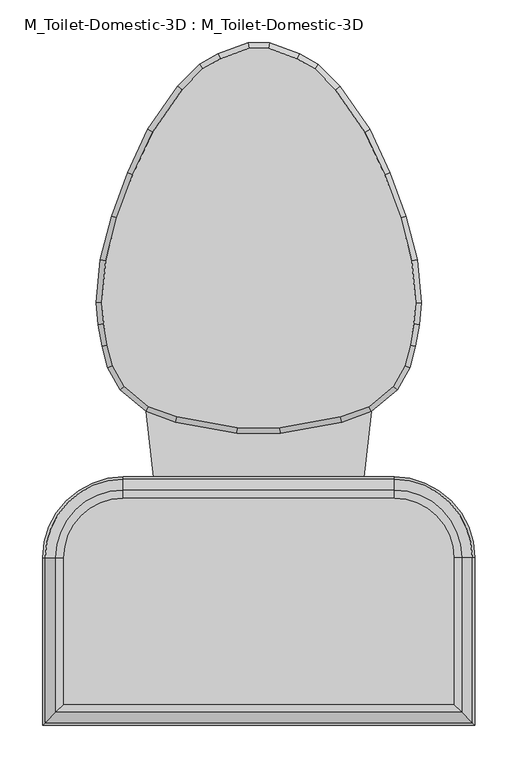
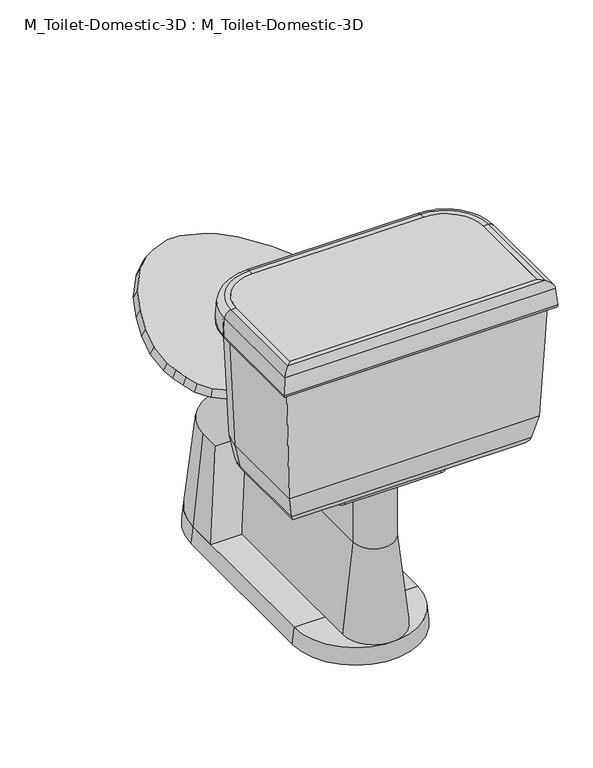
"""IFC4 building model written with IfcOpenShell, lengths in millimetres: flow terminal geometry, M_Toilet-Domestic-3D : M_Toilet-Domestic-3D."""

from ifc_helpers import new_model, si_unit, point, frame, frame_2d, origin, place, context, project, spatial, polyline, circle_curve, ellipse_curve, trimmed, segment, composite_curve, outline, extrude, faceted_brep, source, transform, mapped, element, save
from ifc_brep_helpers import plane_surface, cylinder_surface, revolved_surface, advanced_brep


def m_toilet_domestic_3d_m_toilet_domestic_3d_43425dfb(model_context):
    return source(origin(), model_context, "Body", "SolidModel", [
        advanced_brep(
        [(-117.7636364, -285.75, 0.0), (-114.3, -285.75, 31.75), (-38.1, -285.75, 31.75), (-38.1, -285.75, 0.0), (117.7636364, -285.75, 0.0), (38.1, -285.75, 0.0), (38.1, -285.75, 31.75), (114.3, -285.75, 31.75)],
        [
            (0, 1),
            (1, 2),
            (2, 3),
            (3, 0),
            (4, 5),
            (5, 6),
            (6, 7),
            (7, 4),
            (4, 0, circle_curve(frame((0.0, -285.75, 0.0), z_axis=(0.0, 0.0, -1.0), x_axis=(-1.0, 0.0, 0.0)), 117.7636364)),
            (3, 5, circle_curve(frame((0.0, -285.75, 0.0), z_axis=(0.0, 0.0, 1.0), x_axis=(-1.0, 0.0, 0.0)), 38.1)),
            (2, 6, circle_curve(frame((0.0, -285.75, 31.75), z_axis=(0.0, 0.0, 1.0), x_axis=(-1.0, 0.0, 0.0)), 38.1)),
            (1, 7, circle_curve(frame((0.0, -285.75, 31.75), z_axis=(0.0, 0.0, 1.0), x_axis=(-1.0, 0.0, 0.0)), 114.3)),
        ],
        [
            plane_surface(frame((0.0, -285.75, -304.8), z_axis=(0.0, 1.0, 0.0), x_axis=(-1.0, 0.0, 0.0))),
            plane_surface(frame((0.0, -285.75, -304.8), z_axis=(0.0, 1.0, 0.0), x_axis=(1.0, 0.0, 0.0))),
            plane_surface(frame((0.0, -285.75, 0.0), z_axis=(0.0, 0.0, -1.0), x_axis=(-1.0, 0.0, 0.0))),
            revolved_surface(polyline([(-38.1, -285.75, 0.0), (-38.1, -285.75, 31.75)]), (0.0, -285.75, -304.8), (0.0, 0.0, -1.0)),
            plane_surface(frame((0.0, -285.75, 31.75), z_axis=(0.0, 0.0, 1.0), x_axis=(-1.0, 0.0, 0.0))),
            revolved_surface(polyline([(-114.3, -285.75, 31.75), (-117.7636364, -285.75, 0.0)]), (0.0, -285.75, -304.8), (0.0, 0.0, -1.0)),
        ],
        [
            (0, [[1, 2, 3, 4]]),
            (1, [[5, 6, 7, 8]]),
            (2, [[-5, 9, -4, 10]]),
            (3, [[-6, -10, -3, 11]]),
            (4, [[-7, -11, -2, 12]]),
            (5, [[-8, -12, -1, -9]]),
        ],
    ),
        advanced_brep(
        [(-38.1, -342.9, 206.375), (-38.1, -342.9, 31.75), (-57.15, -342.9, 31.75), (38.1, -342.9, 206.375), (57.15, -342.9, 31.75), (38.1, -342.9, 31.75)],
        [
            (0, 1),
            (1, 2),
            (2, 0),
            (3, 4),
            (4, 5),
            (5, 3),
            (3, 0, circle_curve(frame((0.0, -342.9, 206.375), z_axis=(0.0, 0.0, -1.0), x_axis=(-1.0, 0.0, 0.0)), 38.1)),
            (2, 4, circle_curve(frame((0.0, -342.9, 31.75), z_axis=(0.0, 0.0, 1.0), x_axis=(-1.0, 0.0, 0.0)), 57.15)),
            (1, 5, circle_curve(frame((0.0, -342.9, 31.75), z_axis=(0.0, 0.0, 1.0), x_axis=(-1.0, 0.0, 0.0)), 38.1)),
        ],
        [
            plane_surface(frame((0.0, -342.9, 31.75), z_axis=(0.0, 1.0, 0.0), x_axis=(-1.0, 0.0, 0.0))),
            plane_surface(frame((0.0, -342.9, 31.75), z_axis=(0.0, 1.0, 0.0), x_axis=(1.0, 0.0, 0.0))),
            revolved_surface(polyline([(-38.1, -342.9, 206.375), (-57.15, -342.9, 31.75)]), (0.0, -342.9, 31.75), (0.0, 0.0, -1.0)),
            plane_surface(frame((0.0, -342.9, 31.75), z_axis=(0.0, 0.0, -1.0), x_axis=(-1.0, 0.0, 0.0))),
            revolved_surface(polyline([(-38.1, -342.9, 31.75), (-38.1, -342.9, 206.375)]), (0.0, -342.9, 31.75), (0.0, 0.0, -1.0)),
        ],
        [
            (0, [[1, 2, 3]]),
            (1, [[4, 5, 6]]),
            (2, [[-4, 7, -3, 8]]),
            (3, [[-5, -8, -2, 9]]),
            (4, [[-6, -9, -1, -7]]),
        ],
    ),
        faceted_brep([(-157.6293435, -97.472128, 400.05), (-129.0942628, -121.4159037, 400.05), (-95.7755003, -133.5429415, 400.05), (-24.844447, -146.05, 400.05), (24.844447, -146.05, 400.05), (95.7755003, -133.5429415, 400.05), (129.0942628, -121.4159037, 400.05), (157.6293435, -97.472128, 400.05), (171.060664, -73.773864, 400.05), (177.5851102, -49.4242991, 400.05), (181.9845715, -24.4737144, 400.05), (184.125744, 0.0, 400.05), (179.7950716, 49.4998127, 400.05), (166.347, 99.688699, 400.05), (148.0469602, 149.9676451, 400.05), (124.7045808, 200.0255393, 400.05), (90.0971582, 249.9125941, 400.05), (65.691017, 274.3187354, 400.05), (44.8990862, 286.3229622, 400.05), (11.5803237, 298.45, 400.05), (-11.5803237, 298.45, 400.05), (-44.8990862, 286.3229622, 400.05), (-65.691017, 274.3187354, 400.05), (-90.0971582, 249.9125941, 400.05), (-124.7045808, 200.0255393, 400.05), (-148.0469602, 149.9676451, 400.05), (-166.347, 99.688699, 400.05), (-179.7950716, 49.4998127, 400.05), (-184.125744, 0.0, 400.05), (-181.9845715, -24.4737144, 400.05), (-177.5851102, -49.4242991, 400.05), (-171.060664, -73.773864, 400.05), (-162.5887836, -101.6, 387.2181453), (-176.9845865, -76.2, 387.2181453), (-183.790496, -50.8, 387.2181453), (-188.2862441, -25.3033453, 387.2181453), (-190.5, 0.0, 387.2181453), (-186.0724883, 50.6066907, 387.2181453), (-172.4088722, 101.6, 387.2181453), (-153.9191843, 152.4, 387.2181453), (-130.2307553, 203.2, 387.2181453), (-94.9900085, 254.0, 387.2181453), (-69.5900085, 279.4, 387.2181453), (-47.5929632, 292.1, 387.2181453), (-12.7, 304.8, 387.2181453), (12.7, 304.8, 387.2181453), (47.5929632, 292.1, 387.2181453), (69.5900085, 279.4, 387.2181453), (94.9900085, 254.0, 387.2181453), (130.2307553, 203.2, 387.2181453), (153.9191843, 152.4, 387.2181453), (172.4088722, 101.6, 387.2181453), (186.0724883, 50.6066907, 387.2181453), (190.5, 0.0, 387.2181453), (188.2862441, -25.3033453, 387.2181453), (183.790496, -50.8, 387.2181453), (176.9845865, -76.2, 387.2181453), (162.5887836, -101.6, 387.2181453), (132.3182423, -127.0, 387.2181453), (97.4252791, -139.7, 387.2181453), (25.4, -152.4, 387.2181453), (-25.4, -152.4, 387.2181453), (-97.4252791, -139.7, 387.2181453), (-132.3182423, -127.0, 387.2181453)], [[[0, 1, 2, 3, 4, 5, 6, 7, 8, 9, 10, 11, 12, 13, 14, 15, 16, 17, 18, 19, 20, 21, 22, 23, 24, 25, 26, 27, 28, 29, 30, 31]], [[32, 33, 34, 35, 36, 37, 38, 39, 40, 41, 42, 43, 44, 45, 46, 47, 48, 49, 50, 51, 52, 53, 54, 55, 56, 57, 58, 59, 60, 61, 62, 63]], [[32, 0, 31, 33]], [[33, 31, 30, 34]], [[34, 30, 29, 35]], [[35, 29, 28, 36]], [[36, 28, 27, 37]], [[37, 27, 26, 38]], [[38, 26, 25, 39]], [[39, 25, 24, 40]], [[40, 24, 23, 41]], [[41, 23, 22, 42]], [[42, 22, 21, 43]], [[43, 21, 20, 44]], [[44, 20, 19, 45]], [[45, 19, 18, 46]], [[46, 18, 17, 47]], [[47, 17, 16, 48]], [[48, 16, 15, 49]], [[49, 15, 14, 50]], [[50, 14, 13, 51]], [[51, 13, 12, 52]], [[52, 12, 11, 53]], [[53, 11, 10, 54]], [[54, 10, 9, 55]], [[55, 9, 8, 56]], [[56, 8, 7, 57]], [[57, 7, 6, 58]], [[58, 6, 5, 59]], [[59, 5, 4, 60]], [[60, 4, 3, 61]], [[61, 3, 2, 62]], [[62, 2, 1, 63]], [[63, 1, 0, 32]]]),
        extrude(outline(composite_curve([segment(polyline([(228.5868869, -469.8868869), (-228.5868869, -469.8868869), (-228.5868869, -298.45)]), True, "CONTINUOUS"), segment(trimmed(circle_curve(frame_2d((-158.75, -298.45)), 69.8368869), [point((-228.5868869, -298.45))], [point((-158.75, -228.6131131))], False, "CARTESIAN"), True, "CONTINUOUS"), segment(polyline([(-158.75, -228.6131131), (158.75, -228.6131131)]), True, "CONTINUOUS"), segment(trimmed(circle_curve(frame_2d((158.75, -298.45)), 69.8368869), [point((158.75, -228.6131131))], [point((228.5868869, -298.45))], False, "CARTESIAN"), True, "CONTINUOUS"), segment(polyline([(228.5868869, -298.45), (228.5868869, -469.8868869)]), True, "CONTINUOUS")], self_intersect=False)), frame((0.0, 0.0, 654.05), z_axis=(0.0, 0.0, 1.0), x_axis=(1.0, 0.0, 0.0)), (0.0, 0.0, 1.0), 50.8),
        extrude(outline(composite_curve([segment(polyline([(-38.1, -342.9), (38.1, -342.9)]), True, "CONTINUOUS"), segment(trimmed(circle_curve(frame_2d((0.0, -342.9)), 38.1), [point((38.1, -342.9))], [point((-38.1, -342.9))], False, "CARTESIAN"), True, "CONTINUOUS")], self_intersect=False)), frame((0.0, 0.0, 206.375), z_axis=(0.0, 0.0, 1.0), x_axis=(1.0, 0.0, 0.0)), (0.0, 0.0, 1.0), 130.175),
        advanced_brep(
        [(177.8, -419.1, 387.2181453), (177.8, -298.45, 387.2181453), (177.8, -298.45, 374.65), (177.8, -419.1, 374.65), (192.8020829, -434.1020829, 387.2181453), (192.8020829, -298.45, 387.2181453), (211.4650931, -452.7650931, 402.4478636), (211.4650931, -298.45, 402.4478636), (218.7732506, -460.0732506, 438.15), (218.7732506, -298.45, 438.15), (228.5868869, -469.8868869, 654.05), (228.5868869, -298.45, 654.05), (228.5868869, -469.8868869, 704.85), (228.5868869, -298.45, 704.85), (237.91817, -479.21817, 704.85), (237.91817, -298.45, 704.85), (250.5698426, -491.8698426, 693.2568779), (250.5698426, -298.45, 693.2568779), (253.3960274, -494.6960274, 660.953439), (253.3960274, -298.45, 660.953439), (247.070191, -488.370191, 654.05), (247.070191, -298.45, 654.05), (241.3, -482.6, 654.05), (241.3, -298.45, 654.05), (231.4863636, -472.7863636, 438.15), (231.4863636, -298.45, 438.15), (222.3416824, -463.6416824, 393.4759963), (222.3416824, -298.45, 393.4759963), (197.8071664, -439.1071664, 374.65), (197.8071664, -298.45, 374.65), (158.75, -279.4, 387.2181453), (158.75, -279.4, 374.65), (158.75, -264.3979171, 387.2181453), (158.75, -245.7349069, 402.4478636), (158.75, -238.4267494, 438.15), (158.75, -228.6131131, 654.05), (158.75, -228.6131131, 704.85), (158.75, -219.28183, 704.85), (158.75, -206.6301574, 693.2568779), (158.75, -203.8039726, 660.953439), (158.75, -210.129809, 654.05), (158.75, -215.9, 654.05), (158.75, -225.7136364, 438.15), (158.75, -234.8583176, 393.4759963), (158.75, -259.3928336, 374.65), (-158.75, -279.4, 387.2181453), (-158.75, -279.4, 374.65), (-158.75, -264.3979171, 387.2181453), (-158.75, -245.7349069, 402.4478636), (-158.75, -238.4267494, 438.15), (-158.75, -228.6131131, 654.05), (-158.75, -228.6131131, 704.85), (-158.75, -219.28183, 704.85), (-158.75, -206.6301574, 693.2568779), (-158.75, -203.8039726, 660.953439), (-158.75, -210.129809, 654.05), (-158.75, -215.9, 654.05), (-158.75, -225.7136364, 438.15), (-158.75, -234.8583176, 393.4759963), (-158.75, -259.3928336, 374.65), (-177.8, -298.45, 387.2181453), (-177.8, -298.45, 374.65), (-192.8020829, -298.45, 387.2181453), (-211.4650931, -298.45, 402.4478636), (-218.7732506, -298.45, 438.15), (-228.5868869, -298.45, 654.05), (-228.5868869, -298.45, 704.85), (-237.91817, -298.45, 704.85), (-250.5698426, -298.45, 693.2568779), (-253.3960274, -298.45, 660.953439), (-247.070191, -298.45, 654.05), (-241.3, -298.45, 654.05), (-231.4863636, -298.45, 438.15), (-222.3416824, -298.45, 393.4759963), (-197.8071664, -298.45, 374.65), (-177.8, -419.1, 387.2181453), (-177.8, -419.1, 374.65), (-192.8020829, -434.1020829, 387.2181453), (-211.4650931, -452.7650931, 402.4478636), (-218.7732506, -460.0732506, 438.15), (-228.5868869, -469.8868869, 654.05), (-228.5868869, -469.8868869, 704.85), (-237.91817, -479.21817, 704.85), (-250.5698426, -491.8698426, 693.2568779), (-253.3960274, -494.6960274, 660.953439), (-247.070191, -488.370191, 654.05), (-241.3, -482.6, 654.05), (-231.4863636, -472.7863636, 438.15), (-222.3416824, -463.6416824, 393.4759963), (-197.8071664, -439.1071664, 374.65)],
        [
            (0, 1),
            (1, 2),
            (2, 3),
            (3, 0),
            (4, 5),
            (5, 1),
            (0, 4),
            (6, 7),
            (7, 5, circle_curve(frame((192.8020829, -298.45, 406.2681453), z_axis=(0.0, 1.0, 0.0), x_axis=(1.0, 0.0, 0.0)), 19.05)),
            (4, 6, ellipse_curve(frame((192.8020829, -434.1020829, 406.2681453), z_axis=(-0.7071067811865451, -0.7071067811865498, 0.0), x_axis=(-0.7071067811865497, 0.7071067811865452, 0.0)), 26.9407684, 19.05)),
            (8, 9),
            (9, 7),
            (6, 8),
            (10, 11),
            (11, 9),
            (8, 10),
            (12, 13),
            (13, 11),
            (10, 12),
            (14, 15),
            (15, 13),
            (12, 14),
            (16, 17),
            (17, 15, circle_curve(frame((237.91817, -298.45, 692.15), z_axis=(0.0, -1.0, 0.0), x_axis=(1.0, 0.0, 0.0)), 12.7)),
            (14, 16, ellipse_curve(frame((237.91817, -479.21817, 692.15), z_axis=(0.7071067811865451, 0.7071067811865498, 0.0), x_axis=(0.7071067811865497, -0.7071067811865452, 0.0)), 17.9605122, 12.7)),
            (18, 19),
            (19, 17),
            (16, 18),
            (20, 21),
            (21, 19, circle_curve(frame((247.070191, -298.45, 660.4), z_axis=(0.0, -1.0, 0.0), x_axis=(1.0, 0.0, 0.0)), 6.35)),
            (18, 20, ellipse_curve(frame((247.070191, -488.370191, 660.4), z_axis=(0.7071067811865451, 0.7071067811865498, 0.0), x_axis=(0.7071067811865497, -0.7071067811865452, 0.0)), 8.9802561, 6.35)),
            (22, 23),
            (23, 21),
            (20, 22),
            (24, 25),
            (25, 23),
            (22, 24),
            (26, 27),
            (27, 25),
            (24, 26),
            (28, 29),
            (29, 27, circle_curve(frame((197.8071664, -298.45, 400.05), z_axis=(0.0, -1.0, 0.0), x_axis=(1.0, 0.0, 0.0)), 25.4)),
            (26, 28, ellipse_curve(frame((197.8071664, -439.1071664, 400.05), z_axis=(0.7071067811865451, 0.7071067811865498, 0.0), x_axis=(0.7071067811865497, -0.7071067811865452, 0.0)), 35.9210245, 25.4)),
            (2, 29),
            (28, 3),
            (30, 31),
            (31, 2, circle_curve(frame((158.75, -298.45, 374.65), z_axis=(0.0, 0.0, -1.0), x_axis=(1.0, 0.0, 0.0)), 19.05)),
            (1, 30, circle_curve(frame((158.75, -298.45, 387.2181453), z_axis=(0.0, 0.0, 1.0), x_axis=(1.0, 0.0, 0.0)), 19.05)),
            (32, 30),
            (5, 32, circle_curve(frame((158.75, -298.45, 387.2181453), z_axis=(0.0, 0.0, 1.0), x_axis=(1.0, 0.0, 0.0)), 34.0520829)),
            (33, 32, circle_curve(frame((158.75, -264.3979171, 406.2681453), z_axis=(-1.0, 0.0, 0.0), x_axis=(0.0, 1.0, 0.0)), 19.05)),
            (7, 33, circle_curve(frame((158.75, -298.45, 402.4478636), z_axis=(0.0, 0.0, 1.0), x_axis=(1.0, 0.0, 0.0)), 52.7150931)),
            (34, 33),
            (9, 34, circle_curve(frame((158.75, -298.45, 438.15), z_axis=(0.0, 0.0, 1.0), x_axis=(1.0, 0.0, 0.0)), 60.0232506)),
            (35, 34),
            (11, 35, circle_curve(frame((158.75, -298.45, 654.05), z_axis=(0.0, 0.0, 1.0), x_axis=(1.0, 0.0, 0.0)), 69.8368869)),
            (36, 35),
            (13, 36, circle_curve(frame((158.75, -298.45, 704.85), z_axis=(0.0, 0.0, 1.0), x_axis=(1.0, 0.0, 0.0)), 69.8368869)),
            (37, 36),
            (15, 37, circle_curve(frame((158.75, -298.45, 704.85), z_axis=(0.0, 0.0, 1.0), x_axis=(1.0, 0.0, 0.0)), 79.16817)),
            (38, 37, circle_curve(frame((158.75, -219.28183, 692.15), z_axis=(1.0, 0.0, 0.0), x_axis=(0.0, 1.0, 0.0)), 12.7)),
            (17, 38, circle_curve(frame((158.75, -298.45, 693.2568779), z_axis=(0.0, 0.0, 1.0), x_axis=(1.0, 0.0, 0.0)), 91.8198426)),
            (39, 38),
            (19, 39, circle_curve(frame((158.75, -298.45, 660.953439), z_axis=(0.0, 0.0, 1.0), x_axis=(1.0, 0.0, 0.0)), 94.6460274)),
            (40, 39, circle_curve(frame((158.75, -210.129809, 660.4), z_axis=(1.0, 0.0, 0.0), x_axis=(0.0, 1.0, 0.0)), 6.35)),
            (21, 40, circle_curve(frame((158.75, -298.45, 654.05), z_axis=(0.0, 0.0, 1.0), x_axis=(1.0, 0.0, 0.0)), 88.320191)),
            (41, 40),
            (23, 41, circle_curve(frame((158.75, -298.45, 654.05), z_axis=(0.0, 0.0, 1.0), x_axis=(1.0, 0.0, 0.0)), 82.55)),
            (42, 41),
            (25, 42, circle_curve(frame((158.75, -298.45, 438.15), z_axis=(0.0, 0.0, 1.0), x_axis=(1.0, 0.0, 0.0)), 72.7363636)),
            (43, 42),
            (27, 43, circle_curve(frame((158.75, -298.45, 393.4759963), z_axis=(0.0, 0.0, 1.0), x_axis=(1.0, 0.0, 0.0)), 63.5916824)),
            (44, 43, circle_curve(frame((158.75, -259.3928336, 400.05), z_axis=(1.0, 0.0, 0.0), x_axis=(0.0, 1.0, 0.0)), 25.4)),
            (29, 44, circle_curve(frame((158.75, -298.45, 374.65), z_axis=(0.0, 0.0, 1.0), x_axis=(1.0, 0.0, 0.0)), 39.0571664)),
            (31, 44),
            (30, 45),
            (45, 46),
            (46, 31),
            (32, 47),
            (47, 45),
            (33, 48),
            (48, 47, circle_curve(frame((-158.75, -264.3979171, 406.2681453), z_axis=(-1.0, 0.0, 0.0), x_axis=(0.0, 1.0, 0.0)), 19.05)),
            (34, 49),
            (49, 48),
            (35, 50),
            (50, 49),
            (36, 51),
            (51, 50),
            (37, 52),
            (52, 51),
            (38, 53),
            (53, 52, circle_curve(frame((-158.75, -219.28183, 692.15), z_axis=(1.0, 0.0, 0.0), x_axis=(0.0, 1.0, 0.0)), 12.7)),
            (39, 54),
            (54, 53),
            (40, 55),
            (55, 54, circle_curve(frame((-158.75, -210.129809, 660.4), z_axis=(1.0, 0.0, 0.0), x_axis=(0.0, 1.0, 0.0)), 6.35)),
            (41, 56),
            (56, 55),
            (42, 57),
            (57, 56),
            (43, 58),
            (58, 57),
            (44, 59),
            (59, 58, circle_curve(frame((-158.75, -259.3928336, 400.05), z_axis=(1.0, 0.0, 0.0), x_axis=(0.0, 1.0, 0.0)), 25.4)),
            (46, 59),
            (60, 61),
            (61, 46, circle_curve(frame((-158.75, -298.45, 374.65), z_axis=(0.0, 0.0, -1.0), x_axis=(0.0, 1.0, 0.0)), 19.05)),
            (45, 60, circle_curve(frame((-158.75, -298.45, 387.2181453), z_axis=(0.0, 0.0, 1.0), x_axis=(0.0, 1.0, 0.0)), 19.05)),
            (62, 60),
            (47, 62, circle_curve(frame((-158.75, -298.45, 387.2181453), z_axis=(0.0, 0.0, 1.0), x_axis=(0.0, 1.0, 0.0)), 34.0520829)),
            (63, 62, circle_curve(frame((-192.8020829, -298.45, 406.2681453), z_axis=(0.0, -1.0, 0.0), x_axis=(-1.0, 0.0, 0.0)), 19.05)),
            (48, 63, circle_curve(frame((-158.75, -298.45, 402.4478636), z_axis=(0.0, 0.0, 1.0), x_axis=(0.0, 1.0, 0.0)), 52.7150931)),
            (64, 63),
            (49, 64, circle_curve(frame((-158.75, -298.45, 438.15), z_axis=(0.0, 0.0, 1.0), x_axis=(0.0, 1.0, 0.0)), 60.0232506)),
            (65, 64),
            (50, 65, circle_curve(frame((-158.75, -298.45, 654.05), z_axis=(0.0, 0.0, 1.0), x_axis=(0.0, 1.0, 0.0)), 69.8368869)),
            (66, 65),
            (51, 66, circle_curve(frame((-158.75, -298.45, 704.85), z_axis=(0.0, 0.0, 1.0), x_axis=(0.0, 1.0, 0.0)), 69.8368869)),
            (67, 66),
            (52, 67, circle_curve(frame((-158.75, -298.45, 704.85), z_axis=(0.0, 0.0, 1.0), x_axis=(0.0, 1.0, 0.0)), 79.16817)),
            (68, 67, circle_curve(frame((-237.91817, -298.45, 692.15), z_axis=(0.0, 1.0, 0.0), x_axis=(-1.0, 0.0, 0.0)), 12.7)),
            (53, 68, circle_curve(frame((-158.75, -298.45, 693.2568779), z_axis=(0.0, 0.0, 1.0), x_axis=(0.0, 1.0, 0.0)), 91.8198426)),
            (69, 68),
            (54, 69, circle_curve(frame((-158.75, -298.45, 660.953439), z_axis=(0.0, 0.0, 1.0), x_axis=(0.0, 1.0, 0.0)), 94.6460274)),
            (70, 69, circle_curve(frame((-247.070191, -298.45, 660.4), z_axis=(0.0, 1.0, 0.0), x_axis=(-1.0, 0.0, 0.0)), 6.35)),
            (55, 70, circle_curve(frame((-158.75, -298.45, 654.05), z_axis=(0.0, 0.0, 1.0), x_axis=(0.0, 1.0, 0.0)), 88.320191)),
            (71, 70),
            (56, 71, circle_curve(frame((-158.75, -298.45, 654.05), z_axis=(0.0, 0.0, 1.0), x_axis=(0.0, 1.0, 0.0)), 82.55)),
            (72, 71),
            (57, 72, circle_curve(frame((-158.75, -298.45, 438.15), z_axis=(0.0, 0.0, 1.0), x_axis=(0.0, 1.0, 0.0)), 72.7363636)),
            (73, 72),
            (58, 73, circle_curve(frame((-158.75, -298.45, 393.4759963), z_axis=(0.0, 0.0, 1.0), x_axis=(0.0, 1.0, 0.0)), 63.5916824)),
            (74, 73, circle_curve(frame((-197.8071664, -298.45, 400.05), z_axis=(0.0, 1.0, 0.0), x_axis=(-1.0, 0.0, 0.0)), 25.4)),
            (59, 74, circle_curve(frame((-158.75, -298.45, 374.65), z_axis=(0.0, 0.0, 1.0), x_axis=(0.0, 1.0, 0.0)), 39.0571664)),
            (61, 74),
            (60, 75),
            (75, 76),
            (76, 61),
            (62, 77),
            (77, 75),
            (63, 78),
            (78, 77, ellipse_curve(frame((-192.8020829, -434.1020829, 406.2681453), z_axis=(0.7071067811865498, -0.7071067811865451, 0.0), x_axis=(-0.7071067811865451, -0.70710678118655, 0.0)), 26.9407684, 19.05)),
            (64, 79),
            (79, 78),
            (65, 80),
            (80, 79),
            (66, 81),
            (81, 80),
            (67, 82),
            (82, 81),
            (68, 83),
            (83, 82, ellipse_curve(frame((-237.91817, -479.21817, 692.15), z_axis=(-0.7071067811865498, 0.7071067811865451, 0.0), x_axis=(0.7071067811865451, 0.70710678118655, 0.0)), 17.9605122, 12.7)),
            (69, 84),
            (84, 83),
            (70, 85),
            (85, 84, ellipse_curve(frame((-247.070191, -488.370191, 660.4), z_axis=(-0.7071067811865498, 0.7071067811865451, 0.0), x_axis=(0.7071067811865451, 0.70710678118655, 0.0)), 8.9802561, 6.35)),
            (71, 86),
            (86, 85),
            (72, 87),
            (87, 86),
            (73, 88),
            (88, 87),
            (74, 89),
            (89, 88, ellipse_curve(frame((-197.8071664, -439.1071664, 400.05), z_axis=(-0.7071067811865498, 0.7071067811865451, 0.0), x_axis=(0.7071067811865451, 0.70710678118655, 0.0)), 35.9210245, 25.4)),
            (76, 89),
            (75, 0),
            (3, 76),
            (77, 4),
            (78, 6),
            (79, 8),
            (80, 10),
            (81, 12),
            (82, 14),
            (83, 16),
            (84, 18),
            (85, 20),
            (86, 22),
            (87, 24),
            (88, 26),
            (89, 28),
        ],
        [
            plane_surface(frame((177.8, -419.1, 374.65), z_axis=(-1.0, 0.0, 0.0), x_axis=(0.0, 1.0, 0.0))),
            plane_surface(frame((177.8, -419.1, 387.2181453), z_axis=(0.0, 0.0, 1.0), x_axis=(0.0, 1.0, 0.0))),
            revolved_surface(polyline([(211.8520829, -298.45, 406.2681453), (211.8520829, -453.1520829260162, 406.2681453)]), (192.8020829, -419.1, 406.2681453), (0.0, 1.0, 0.0)),
            plane_surface(frame((211.4650931, -452.7650931, 402.4478636), z_axis=(-0.9796855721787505, 0.0, 0.2005397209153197), x_axis=(0.0, 1.0, 0.0))),
            plane_surface(frame((218.7732506, -460.0732506, 438.15), z_axis=(-0.9989685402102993, 0.0, 0.04540766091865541), x_axis=(0.0, 1.0, 0.0))),
            plane_surface(frame((228.5868869, -469.8868869, 654.05), z_axis=(-1.0, 0.0, 0.0), x_axis=(0.0, 1.0, 0.0))),
            plane_surface(frame((228.5868869, -469.8868869, 704.85), z_axis=(0.0, 0.0, 1.0), x_axis=(0.0, 1.0, 0.0))),
            cylinder_surface(frame((237.91817, -419.1, 692.15), z_axis=(0.0, -1.0, 0.0), x_axis=(1.0, 0.0, 0.0)), 12.7),
            plane_surface(frame((250.5698426, -491.8698426, 693.2568779), z_axis=(0.9961946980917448, 0.0, 0.08715574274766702), x_axis=(0.0, 1.0, 0.0))),
            cylinder_surface(frame((247.070191, -419.1, 660.4), z_axis=(0.0, -1.0, 0.0), x_axis=(1.0, 0.0, 0.0)), 6.35),
            plane_surface(frame((247.070191, -488.370191, 654.05), z_axis=(0.0, 0.0, -1.0), x_axis=(0.0, 1.0, 0.0))),
            plane_surface(frame((241.3, -482.6, 654.05), z_axis=(0.9989685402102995, 0.0, -0.04540766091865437), x_axis=(0.0, 1.0, 0.0))),
            plane_surface(frame((231.4863636, -472.7863636, 438.15), z_axis=(0.9796855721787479, 0.0, -0.2005397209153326), x_axis=(0.0, 1.0, 0.0))),
            cylinder_surface(frame((197.8071664, -419.1, 400.05), z_axis=(0.0, -1.0, 0.0), x_axis=(1.0, 0.0, 0.0)), 25.4),
            plane_surface(frame((197.8071664, -439.1071664, 374.65), z_axis=(0.0, 0.0, -1.0), x_axis=(0.0, 1.0, 0.0))),
            revolved_surface(polyline([(177.8, -298.45, 374.65), (177.8, -298.45, 387.2181453)]), (158.75, -298.45, 0.0), (0.0, 0.0, -1.0)),
            plane_surface(frame((158.75, -298.45, 387.2181453), z_axis=(0.0, 0.0, 1.0), x_axis=(1.0, 0.0, 0.0))),
            revolved_surface(trimmed(ellipse_curve(frame((192.8020829, -298.45, 406.2681453), z_axis=(0.0, -1.0, 0.0), x_axis=(1.0, 0.0, 0.0)), 19.05, 19.05), [point((192.8020829, -298.45, 387.2181453))], [point((211.4650931, -298.45, 402.4478636))], True, "CARTESIAN"), (158.75, -298.45, 0.0), (0.0, 0.0, -1.0)),
            revolved_surface(polyline([(211.4650931, -298.45, 402.4478636), (218.7732506, -298.45, 438.15)]), (158.75, -298.45, 0.0), (0.0, 0.0, -1.0)),
            revolved_surface(polyline([(218.7732506, -298.45, 438.15), (228.5868869, -298.45, 654.05)]), (158.75, -298.45, 0.0), (0.0, 0.0, -1.0)),
            revolved_surface(polyline([(228.5868869, -298.45, 654.05), (228.5868869, -298.45, 704.85)]), (158.75, -298.45, 0.0), (0.0, 0.0, -1.0)),
            plane_surface(frame((158.75, -298.45, 704.85), z_axis=(0.0, 0.0, 1.0), x_axis=(1.0, 0.0, 0.0))),
            revolved_surface(trimmed(ellipse_curve(frame((237.91817, -298.45, 692.15), z_axis=(0.0, 1.0, 0.0), x_axis=(1.0, 0.0, 0.0)), 12.7, 12.7), [point((237.91817, -298.45, 704.85))], [point((250.5698426, -298.45, 693.2568779))], True, "CARTESIAN"), (158.75, -298.45, 0.0), (0.0, 0.0, -1.0)),
            revolved_surface(polyline([(250.5698426, -298.45, 693.2568779), (253.3960274, -298.45, 660.953439)]), (158.75, -298.45, 0.0), (0.0, 0.0, -1.0)),
            revolved_surface(trimmed(ellipse_curve(frame((247.070191, -298.45, 660.4), z_axis=(0.0, 1.0, 0.0), x_axis=(1.0, 0.0, 0.0)), 6.35, 6.35), [point((253.3960274, -298.45, 660.953439))], [point((247.070191, -298.45, 654.05))], True, "CARTESIAN"), (158.75, -298.45, 0.0), (0.0, 0.0, -1.0)),
            plane_surface(frame((158.75, -298.45, 654.05), z_axis=(0.0, 0.0, -1.0), x_axis=(1.0, 0.0, 0.0))),
            revolved_surface(polyline([(241.3, -298.45, 654.05), (231.4863636, -298.45, 438.15)]), (158.75, -298.45, 0.0), (0.0, 0.0, -1.0)),
            revolved_surface(polyline([(231.4863636, -298.45, 438.15), (222.3416824, -298.45, 393.4759963)]), (158.75, -298.45, 0.0), (0.0, 0.0, -1.0)),
            revolved_surface(trimmed(ellipse_curve(frame((197.8071664, -298.45, 400.05), z_axis=(0.0, 1.0, 0.0), x_axis=(1.0, 0.0, 0.0)), 25.4, 25.4), [point((222.3416824, -298.45, 393.4759963))], [point((197.8071664, -298.45, 374.65))], True, "CARTESIAN"), (158.75, -298.45, 0.0), (0.0, 0.0, -1.0)),
            plane_surface(frame((158.75, -298.45, 374.65), z_axis=(0.0, 0.0, -1.0), x_axis=(1.0, 0.0, 0.0))),
            plane_surface(frame((158.75, -279.4, 374.65), z_axis=(0.0, -1.0, 0.0), x_axis=(-1.0, 0.0, 0.0))),
            plane_surface(frame((158.75, -279.4, 387.2181453), z_axis=(0.0, 0.0, 1.0), x_axis=(-1.0, 0.0, 0.0))),
            revolved_surface(polyline([(-158.75, -245.34791709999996, 406.2681453), (158.75, -245.34791709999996, 406.2681453)]), (158.75, -264.3979171, 406.2681453), (-1.0, 0.0, 0.0)),
            plane_surface(frame((158.75, -245.7349069, 402.4478636), z_axis=(0.0, -0.9796855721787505, 0.2005397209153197), x_axis=(-1.0, 0.0, 0.0))),
            plane_surface(frame((158.75, -238.4267494, 438.15), z_axis=(0.0, -0.9989685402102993, 0.04540766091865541), x_axis=(-1.0, 0.0, 0.0))),
            plane_surface(frame((158.75, -228.6131131, 654.05), z_axis=(0.0, -1.0, 0.0), x_axis=(-1.0, 0.0, 0.0))),
            plane_surface(frame((158.75, -228.6131131, 704.85), z_axis=(0.0, 0.0, 1.0), x_axis=(-1.0, 0.0, 0.0))),
            cylinder_surface(frame((158.75, -219.28183, 692.15), z_axis=(1.0, 0.0, 0.0), x_axis=(0.0, 1.0, 0.0)), 12.7),
            plane_surface(frame((158.75, -206.6301574, 693.2568779), z_axis=(0.0, 0.9961946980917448, 0.08715574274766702), x_axis=(-1.0, 0.0, 0.0))),
            cylinder_surface(frame((158.75, -210.129809, 660.4), z_axis=(1.0, 0.0, 0.0), x_axis=(0.0, 1.0, 0.0)), 6.35),
            plane_surface(frame((158.75, -210.129809, 654.05), z_axis=(0.0, 0.0, -1.0), x_axis=(-1.0, 0.0, 0.0))),
            plane_surface(frame((158.75, -215.9, 654.05), z_axis=(0.0, 0.9989685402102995, -0.04540766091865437), x_axis=(-1.0, 0.0, 0.0))),
            plane_surface(frame((158.75, -225.7136364, 438.15), z_axis=(0.0, 0.9796855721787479, -0.2005397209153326), x_axis=(-1.0, 0.0, 0.0))),
            cylinder_surface(frame((158.75, -259.3928336, 400.05), z_axis=(1.0, 0.0, 0.0), x_axis=(0.0, 1.0, 0.0)), 25.4),
            plane_surface(frame((158.75, -259.3928336, 374.65), z_axis=(0.0, 0.0, -1.0), x_axis=(-1.0, 0.0, 0.0))),
            revolved_surface(polyline([(-158.75, -279.4, 374.65), (-158.75, -279.4, 387.2181453)]), (-158.75, -298.45, 0.0), (0.0, 0.0, -1.0)),
            plane_surface(frame((-158.75, -298.45, 387.2181453), z_axis=(0.0, 0.0, 1.0), x_axis=(0.0, 1.0, 0.0))),
            revolved_surface(trimmed(ellipse_curve(frame((-158.75, -264.3979171, 406.2681453), z_axis=(1.0, 0.0, 0.0), x_axis=(0.0, 1.0, 0.0)), 19.05, 19.05), [point((-158.75, -264.3979171, 387.2181453))], [point((-158.75, -245.7349069, 402.4478636))], True, "CARTESIAN"), (-158.75, -298.45, 0.0), (0.0, 0.0, -1.0)),
            revolved_surface(polyline([(-158.75, -245.7349069, 402.4478636), (-158.75, -238.4267494, 438.15)]), (-158.75, -298.45, 0.0), (0.0, 0.0, -1.0)),
            revolved_surface(polyline([(-158.75, -238.4267494, 438.15), (-158.75, -228.6131131, 654.05)]), (-158.75, -298.45, 0.0), (0.0, 0.0, -1.0)),
            revolved_surface(polyline([(-158.75, -228.6131131, 654.05), (-158.75, -228.6131131, 704.85)]), (-158.75, -298.45, 0.0), (0.0, 0.0, -1.0)),
            plane_surface(frame((-158.75, -298.45, 704.85), z_axis=(0.0, 0.0, 1.0), x_axis=(0.0, 1.0, 0.0))),
            revolved_surface(trimmed(ellipse_curve(frame((-158.75, -219.28183, 692.15), z_axis=(-1.0, 0.0, 0.0), x_axis=(0.0, 1.0, 0.0)), 12.7, 12.7), [point((-158.75, -219.28183, 704.85))], [point((-158.75, -206.6301574, 693.2568779))], True, "CARTESIAN"), (-158.75, -298.45, 0.0), (0.0, 0.0, -1.0)),
            revolved_surface(polyline([(-158.75, -206.6301574, 693.2568779), (-158.75, -203.8039726, 660.953439)]), (-158.75, -298.45, 0.0), (0.0, 0.0, -1.0)),
            revolved_surface(trimmed(ellipse_curve(frame((-158.75, -210.129809, 660.4), z_axis=(-1.0, 0.0, 0.0), x_axis=(0.0, 1.0, 0.0)), 6.35, 6.35), [point((-158.75, -203.8039726, 660.953439))], [point((-158.75, -210.129809, 654.05))], True, "CARTESIAN"), (-158.75, -298.45, 0.0), (0.0, 0.0, -1.0)),
            plane_surface(frame((-158.75, -298.45, 654.05), z_axis=(0.0, 0.0, -1.0), x_axis=(0.0, 1.0, 0.0))),
            revolved_surface(polyline([(-158.75, -215.9, 654.05), (-158.75, -225.7136364, 438.15)]), (-158.75, -298.45, 0.0), (0.0, 0.0, -1.0)),
            revolved_surface(polyline([(-158.75, -225.7136364, 438.15), (-158.75, -234.8583176, 393.4759963)]), (-158.75, -298.45, 0.0), (0.0, 0.0, -1.0)),
            revolved_surface(trimmed(ellipse_curve(frame((-158.75, -259.3928336, 400.05), z_axis=(-1.0, 0.0, 0.0), x_axis=(0.0, 1.0, 0.0)), 25.4, 25.4), [point((-158.75, -234.8583176, 393.4759963))], [point((-158.75, -259.3928336, 374.65))], True, "CARTESIAN"), (-158.75, -298.45, 0.0), (0.0, 0.0, -1.0)),
            plane_surface(frame((-158.75, -298.45, 374.65), z_axis=(0.0, 0.0, -1.0), x_axis=(0.0, 1.0, 0.0))),
            plane_surface(frame((-177.8, -298.45, 374.65), z_axis=(1.0, 0.0, 0.0), x_axis=(0.0, -1.0, 0.0))),
            plane_surface(frame((-177.8, -298.45, 387.2181453), z_axis=(0.0, 0.0, 1.0), x_axis=(0.0, -1.0, 0.0))),
            revolved_surface(polyline([(-211.8520829, -453.15208292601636, 406.2681453), (-211.8520829, -298.45, 406.2681453)]), (-192.8020829, -298.45, 406.2681453), (0.0, -1.0, 0.0)),
            plane_surface(frame((-211.4650931, -298.45, 402.4478636), z_axis=(0.9796855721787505, 0.0, 0.2005397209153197), x_axis=(0.0, -1.0, 0.0))),
            plane_surface(frame((-218.7732506, -298.45, 438.15), z_axis=(0.9989685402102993, 0.0, 0.04540766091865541), x_axis=(0.0, -1.0, 0.0))),
            plane_surface(frame((-228.5868869, -298.45, 654.05), z_axis=(1.0, 0.0, 0.0), x_axis=(0.0, -1.0, 0.0))),
            plane_surface(frame((-228.5868869, -298.45, 704.85), z_axis=(0.0, 0.0, 1.0), x_axis=(0.0, -1.0, 0.0))),
            cylinder_surface(frame((-237.91817, -298.45, 692.15), z_axis=(0.0, 1.0, 0.0), x_axis=(-1.0, 0.0, 0.0)), 12.7),
            plane_surface(frame((-250.5698426, -298.45, 693.2568779), z_axis=(-0.9961946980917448, 0.0, 0.08715574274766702), x_axis=(0.0, -1.0, 0.0))),
            cylinder_surface(frame((-247.070191, -298.45, 660.4), z_axis=(0.0, 1.0, 0.0), x_axis=(-1.0, 0.0, 0.0)), 6.35),
            plane_surface(frame((-247.070191, -298.45, 654.05), z_axis=(0.0, 0.0, -1.0), x_axis=(0.0, -1.0, 0.0))),
            plane_surface(frame((-241.3, -298.45, 654.05), z_axis=(-0.9989685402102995, 0.0, -0.04540766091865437), x_axis=(0.0, -1.0, 0.0))),
            plane_surface(frame((-231.4863636, -298.45, 438.15), z_axis=(-0.9796855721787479, 0.0, -0.2005397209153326), x_axis=(0.0, -1.0, 0.0))),
            cylinder_surface(frame((-197.8071664, -298.45, 400.05), z_axis=(0.0, 1.0, 0.0), x_axis=(-1.0, 0.0, 0.0)), 25.4),
            plane_surface(frame((-197.8071664, -298.45, 374.65), z_axis=(0.0, 0.0, -1.0), x_axis=(0.0, -1.0, 0.0))),
            plane_surface(frame((-177.8, -419.1, 374.65), z_axis=(0.0, 1.0, 0.0), x_axis=(1.0, 0.0, 0.0))),
            plane_surface(frame((-177.8, -419.1, 387.2181453), z_axis=(0.0, 0.0, 1.0), x_axis=(1.0, 0.0, 0.0))),
            revolved_surface(polyline([(211.85208292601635, -453.15208290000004, 406.2681453), (-211.85208292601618, -453.15208290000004, 406.2681453)]), (-177.8, -434.1020829, 406.2681453), (1.0, 0.0, 0.0)),
            plane_surface(frame((-211.4650931, -452.7650931, 402.4478636), z_axis=(0.0, 0.9796855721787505, 0.2005397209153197), x_axis=(1.0, 0.0, 0.0))),
            plane_surface(frame((-218.7732506, -460.0732506, 438.15), z_axis=(0.0, 0.9989685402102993, 0.04540766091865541), x_axis=(1.0, 0.0, 0.0))),
            plane_surface(frame((-228.5868869, -469.8868869, 654.05), z_axis=(0.0, 1.0, 0.0), x_axis=(1.0, 0.0, 0.0))),
            plane_surface(frame((-228.5868869, -469.8868869, 704.85), z_axis=(0.0, 0.0, 1.0), x_axis=(1.0, 0.0, 0.0))),
            cylinder_surface(frame((-177.8, -479.21817, 692.15), z_axis=(-1.0, 0.0, 0.0), x_axis=(0.0, -1.0, 0.0)), 12.7),
            plane_surface(frame((-250.5698426, -491.8698426, 693.2568779), z_axis=(0.0, -0.9961946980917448, 0.08715574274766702), x_axis=(1.0, 0.0, 0.0))),
            cylinder_surface(frame((-177.8, -488.370191, 660.4), z_axis=(-1.0, 0.0, 0.0), x_axis=(0.0, -1.0, 0.0)), 6.35),
            plane_surface(frame((-247.070191, -488.370191, 654.05), z_axis=(0.0, 0.0, -1.0), x_axis=(1.0, 0.0, 0.0))),
            plane_surface(frame((-241.3, -482.6, 654.05), z_axis=(0.0, -0.9989685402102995, -0.04540766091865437), x_axis=(1.0, 0.0, 0.0))),
            plane_surface(frame((-231.4863636, -472.7863636, 438.15), z_axis=(0.0, -0.9796855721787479, -0.2005397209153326), x_axis=(1.0, 0.0, 0.0))),
            cylinder_surface(frame((-177.8, -439.1071664, 400.05), z_axis=(-1.0, 0.0, 0.0), x_axis=(0.0, -1.0, 0.0)), 25.4),
            plane_surface(frame((-197.8071664, -439.1071664, 374.65), z_axis=(0.0, 0.0, -1.0), x_axis=(1.0, 0.0, 0.0))),
        ],
        [
            (0, [[1, 2, 3, 4]]),
            (1, [[5, 6, -1, 7]]),
            (2, [[8, 9, -5, 10]]),
            (3, [[11, 12, -8, 13]]),
            (4, [[14, 15, -11, 16]]),
            (5, [[17, 18, -14, 19]]),
            (6, [[20, 21, -17, 22]]),
            (7, [[23, 24, -20, 25]]),
            (8, [[26, 27, -23, 28]]),
            (9, [[29, 30, -26, 31]]),
            (10, [[32, 33, -29, 34]]),
            (11, [[35, 36, -32, 37]]),
            (12, [[38, 39, -35, 40]]),
            (13, [[41, 42, -38, 43]]),
            (14, [[-3, 44, -41, 45]]),
            (15, [[46, 47, -2, 48]]),
            (16, [[49, -48, -6, 50]]),
            (17, [[51, -50, -9, 52]]),
            (18, [[53, -52, -12, 54]]),
            (19, [[55, -54, -15, 56]]),
            (20, [[57, -56, -18, 58]]),
            (21, [[59, -58, -21, 60]]),
            (22, [[61, -60, -24, 62]]),
            (23, [[63, -62, -27, 64]]),
            (24, [[65, -64, -30, 66]]),
            (25, [[67, -66, -33, 68]]),
            (26, [[69, -68, -36, 70]]),
            (27, [[71, -70, -39, 72]]),
            (28, [[73, -72, -42, 74]]),
            (29, [[75, -74, -44, -47]]),
            (30, [[76, 77, 78, -46]]),
            (31, [[79, 80, -76, -49]]),
            (32, [[81, 82, -79, -51]]),
            (33, [[83, 84, -81, -53]]),
            (34, [[85, 86, -83, -55]]),
            (35, [[87, 88, -85, -57]]),
            (36, [[89, 90, -87, -59]]),
            (37, [[91, 92, -89, -61]]),
            (38, [[93, 94, -91, -63]]),
            (39, [[95, 96, -93, -65]]),
            (40, [[97, 98, -95, -67]]),
            (41, [[99, 100, -97, -69]]),
            (42, [[101, 102, -99, -71]]),
            (43, [[103, 104, -101, -73]]),
            (44, [[-78, 105, -103, -75]]),
            (45, [[106, 107, -77, 108]]),
            (46, [[109, -108, -80, 110]]),
            (47, [[111, -110, -82, 112]]),
            (48, [[113, -112, -84, 114]]),
            (49, [[115, -114, -86, 116]]),
            (50, [[117, -116, -88, 118]]),
            (51, [[119, -118, -90, 120]]),
            (52, [[121, -120, -92, 122]]),
            (53, [[123, -122, -94, 124]]),
            (54, [[125, -124, -96, 126]]),
            (55, [[127, -126, -98, 128]]),
            (56, [[129, -128, -100, 130]]),
            (57, [[131, -130, -102, 132]]),
            (58, [[133, -132, -104, 134]]),
            (59, [[135, -134, -105, -107]]),
            (60, [[136, 137, 138, -106]]),
            (61, [[139, 140, -136, -109]]),
            (62, [[141, 142, -139, -111]]),
            (63, [[143, 144, -141, -113]]),
            (64, [[145, 146, -143, -115]]),
            (65, [[147, 148, -145, -117]]),
            (66, [[149, 150, -147, -119]]),
            (67, [[151, 152, -149, -121]]),
            (68, [[153, 154, -151, -123]]),
            (69, [[155, 156, -153, -125]]),
            (70, [[157, 158, -155, -127]]),
            (71, [[159, 160, -157, -129]]),
            (72, [[161, 162, -159, -131]]),
            (73, [[163, 164, -161, -133]]),
            (74, [[-138, 165, -163, -135]]),
            (75, [[166, -4, 167, -137]]),
            (76, [[168, -7, -166, -140]]),
            (77, [[169, -10, -168, -142]]),
            (78, [[170, -13, -169, -144]]),
            (79, [[171, -16, -170, -146]]),
            (80, [[172, -19, -171, -148]]),
            (81, [[173, -22, -172, -150]]),
            (82, [[174, -25, -173, -152]]),
            (83, [[175, -28, -174, -154]]),
            (84, [[176, -31, -175, -156]]),
            (85, [[177, -34, -176, -158]]),
            (86, [[178, -37, -177, -160]]),
            (87, [[179, -40, -178, -162]]),
            (88, [[180, -43, -179, -164]]),
            (89, [[-167, -45, -180, -165]]),
        ],
    ),
        extrude(outline(composite_curve([segment(polyline([(-25.4, -152.4), (0.0, -152.4), (25.4, -152.4), (97.4252791, -139.7), (132.3182423, -127.0), (101.4824733, -395.1508638)]), True, "CONTINUOUS"), segment(trimmed(circle_curve(frame_2d((88.8656197, -393.7)), 12.7), [point((101.4824733, -395.1508638))], [point((88.8656197, -406.4))], False, "CARTESIAN"), True, "CONTINUOUS"), segment(polyline([(88.8656197, -406.4), (-88.8656197, -406.4)]), True, "CONTINUOUS"), segment(trimmed(circle_curve(frame_2d((-88.8656197, -393.7)), 12.7), [point((-88.8656197, -406.4))], [point((-101.4824733, -395.1508638))], False, "CARTESIAN"), True, "CONTINUOUS"), segment(polyline([(-101.4824733, -395.1508638), (-132.3182423, -127.0), (-97.4252791, -139.7), (-25.4, -152.4)]), True, "CONTINUOUS")], self_intersect=False)), frame((0.0, 0.0, 336.55), z_axis=(0.0, 0.0, 1.0), x_axis=(1.0, 0.0, 0.0)), (0.0, 0.0, 1.0), 25.4),
        extrude(outline(polyline([(-139.7, 264.5247209), (-127.0, 229.6317577), (-107.4852632, 206.375), (-342.9, 206.375), (-342.9, 336.55), (-152.4, 336.55), (-139.7, 264.5247209)])), frame((-38.1, 0.0, 0.0), z_axis=(1.0, 0.0, 0.0), x_axis=(0.0, 1.0, 0.0)), (0.0, 0.0, 1.0), 76.2),
        advanced_brep(
        [(-117.7636364, -285.75, 0.0), (-38.1, -285.75, 0.0), (-38.1, -285.75, 31.75), (-114.3, -285.75, 31.75), (-114.3, 38.0999951, 31.75), (-117.7636364, 38.0999951, 0.0), (-38.1, 38.0999951, 31.75), (-38.1, 38.0999951, 0.0), (114.2999707, 38.0999951, 31.75), (117.7636071, 38.0999951, 0.0), (38.0999707, 38.0999951, 31.75), (38.0999707, 38.0999951, 0.0), (117.7636071, -285.6681634, 0.0), (114.2999707, -285.6681634, 31.75), (38.0999707, -285.6681634, 31.75), (38.0999707, -285.6681634, 0.0)],
        [
            (0, 1),
            (1, 2),
            (2, 3),
            (3, 0),
            (3, 4),
            (4, 5),
            (5, 0),
            (2, 6),
            (6, 4),
            (1, 7),
            (7, 6),
            (5, 7),
            (8, 9),
            (9, 5, circle_curve(frame((-1.46e-05, 38.0999951, 0.0), z_axis=(0.0, 0.0, 1.0), x_axis=(-1.0, 0.0, 0.0)), 117.7636217)),
            (4, 8, circle_curve(frame((-1.46e-05, 38.0999951, 31.75), z_axis=(0.0, 0.0, -1.0), x_axis=(-1.0, 0.0, 0.0)), 114.2999854)),
            (10, 8),
            (6, 10, circle_curve(frame((-1.46e-05, 38.0999951, 31.75), z_axis=(0.0, 0.0, -1.0), x_axis=(-1.0, 0.0, 0.0)), 38.0999854)),
            (11, 10),
            (7, 11, circle_curve(frame((-1.46e-05, 38.0999951, 0.0), z_axis=(0.0, 0.0, -1.0), x_axis=(-1.0, 0.0, 0.0)), 38.0999854)),
            (9, 11),
            (12, 13),
            (13, 14),
            (14, 15),
            (15, 12),
            (8, 13),
            (12, 9),
            (10, 14),
            (11, 15),
        ],
        [
            plane_surface(frame((-196.85, -285.75, 0.0), z_axis=(0.0, -1.0, 0.0), x_axis=(0.0, 0.0, -1.0))),
            plane_surface(frame((-117.7636364, -285.75, 0.0), z_axis=(-0.9941021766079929, 0.0, 0.10844751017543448), x_axis=(0.0, 1.0, 0.0))),
            plane_surface(frame((-114.3, -285.75, 31.75), z_axis=(0.0, 0.0, 1.0), x_axis=(0.0, 1.0, 0.0))),
            plane_surface(frame((-38.1, -285.75, 31.75), z_axis=(1.0, 0.0, 0.0), x_axis=(0.0, 1.0, 0.0))),
            plane_surface(frame((-38.1, -285.75, 0.0), z_axis=(0.0, 0.0, -1.0), x_axis=(0.0, 1.0, 0.0))),
            revolved_surface(polyline([(-117.7636364, 38.0999951, 0.0), (-114.3, 38.0999951, 31.75)]), (-1.46e-05, 38.0999951, 0.0), (0.0, 0.0, 1.0)),
            plane_surface(frame((-1.46e-05, 38.0999951, 31.75), z_axis=(0.0, 0.0, 1.0), x_axis=(-1.0, 0.0, 0.0))),
            revolved_surface(polyline([(-38.1, 38.0999951, 31.75), (-38.1, 38.0999951, 0.0)]), (-1.46e-05, 38.0999951, 0.0), (0.0, 0.0, 1.0)),
            plane_surface(frame((-1.46e-05, 38.0999951, 0.0), z_axis=(0.0, 0.0, -1.0), x_axis=(-1.0, 0.0, 0.0))),
            plane_surface(frame((31.7499707, -285.6681634, 0.0), z_axis=(0.0, -1.0, 0.0), x_axis=(0.0, 0.0, 1.0))),
            plane_surface(frame((117.7636071, 38.0999951, 0.0), z_axis=(0.9941021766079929, 0.0, 0.10844751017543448), x_axis=(0.0, -1.0, 0.0))),
            plane_surface(frame((114.2999707, 38.0999951, 31.75), z_axis=(0.0, 0.0, 1.0), x_axis=(0.0, -1.0, 0.0))),
            plane_surface(frame((38.0999707, 38.0999951, 31.75), z_axis=(-1.0, 0.0, 0.0), x_axis=(0.0, -1.0, 0.0))),
            plane_surface(frame((38.0999707, 38.0999951, 0.0), z_axis=(0.0, 0.0, -1.0), x_axis=(0.0, -1.0, 0.0))),
        ],
        [
            (0, [[1, 2, 3, 4]]),
            (1, [[5, 6, 7, -4]]),
            (2, [[8, 9, -5, -3]]),
            (3, [[10, 11, -8, -2]]),
            (4, [[-7, 12, -10, -1]]),
            (5, [[13, 14, -6, 15]]),
            (6, [[16, -15, -9, 17]]),
            (7, [[18, -17, -11, 19]]),
            (8, [[20, -19, -12, -14]]),
            (9, [[21, 22, 23, 24]]),
            (10, [[25, -21, 26, -13]]),
            (11, [[27, -22, -25, -16]]),
            (12, [[28, -23, -27, -18]]),
            (13, [[-26, -24, -28, -20]]),
        ],
    ),
        advanced_brep(
        [(-57.15, -342.9, 31.75), (-38.1, -342.9, 31.75), (-38.1, -342.9, 206.375), (-38.1, 0.0, 206.375), (-57.15, -19.05, 31.75), (-38.1, 0.0, 31.75), (-95.25, 0.0, 206.375), (-114.3, -19.05, 31.75), (-95.25, 0.0, 31.75), (-95.25, 38.1, 206.375), (-114.3, 38.1, 31.75), (-95.25, 38.1, 31.75), (95.25, 38.1, 206.375), (114.3, 38.1, 31.75), (95.25, 38.1, 31.75), (95.25, 0.0, 206.375), (114.3, -19.05, 31.75), (95.25, 0.0, 31.75), (38.1, 0.0, 206.375), (57.15, -19.05, 31.75), (38.1, 0.0, 31.75), (57.15, -342.9, 31.75), (38.1, -342.9, 206.375), (38.1, -342.9, 31.75)],
        [
            (0, 1),
            (1, 2),
            (2, 0),
            (2, 3),
            (3, 4),
            (4, 0),
            (1, 5),
            (5, 3),
            (4, 5),
            (3, 6),
            (6, 7),
            (7, 4),
            (5, 8),
            (8, 6),
            (7, 8),
            (6, 9),
            (9, 10),
            (10, 7),
            (8, 11),
            (11, 9),
            (10, 11),
            (12, 13),
            (13, 10, circle_curve(frame((0.0, 38.1, 31.75), z_axis=(0.0, 0.0, 1.0), x_axis=(-1.0, 0.0, 0.0)), 114.3)),
            (9, 12, circle_curve(frame((0.0, 38.1, 206.375), z_axis=(0.0, 0.0, -1.0), x_axis=(-1.0, 0.0, 0.0)), 95.25)),
            (14, 12),
            (11, 14, circle_curve(frame((0.0, 38.1, 31.75), z_axis=(0.0, 0.0, -1.0), x_axis=(-1.0, 0.0, 0.0)), 95.25)),
            (13, 14),
            (12, 15),
            (15, 16),
            (16, 13),
            (14, 17),
            (17, 15),
            (16, 17),
            (15, 18),
            (18, 19),
            (19, 16),
            (17, 20),
            (20, 18),
            (19, 20),
            (21, 22),
            (22, 23),
            (23, 21),
            (18, 22),
            (21, 19),
            (20, 23),
        ],
        [
            plane_surface(frame((-244.475, -342.9, 0.0), z_axis=(0.0, -1.0, 0.0), x_axis=(0.0, 0.0, -1.0))),
            plane_surface(frame((-57.15, -342.9, 31.75), z_axis=(-0.9941021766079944, 0.0, 0.10844751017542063), x_axis=(0.0, 1.0, 0.0))),
            plane_surface(frame((-38.1, -342.9, 206.375), z_axis=(1.0, 0.0, 0.0), x_axis=(0.0, 1.0, 0.0))),
            plane_surface(frame((-38.1, -342.9, 31.75), z_axis=(0.0, 0.0, -1.0), x_axis=(0.0, 1.0, 0.0))),
            plane_surface(frame((-57.15, -19.05, 31.75), z_axis=(0.0, -0.9941021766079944, 0.10844751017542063), x_axis=(-1.0, 0.0, 0.0))),
            plane_surface(frame((-38.1, 0.0, 206.375), z_axis=(0.0, 1.0, 0.0), x_axis=(-1.0, 0.0, 0.0))),
            plane_surface(frame((-38.1, 0.0, 31.75), z_axis=(0.0, 0.0, -1.0), x_axis=(-1.0, 0.0, 0.0))),
            plane_surface(frame((-114.3, -19.05, 31.75), z_axis=(-0.9941021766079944, 0.0, 0.10844751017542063), x_axis=(0.0, 1.0, 0.0))),
            plane_surface(frame((-95.25, 0.0, 206.375), z_axis=(1.0, 0.0, 0.0), x_axis=(0.0, 1.0, 0.0))),
            plane_surface(frame((-95.25, 0.0, 31.75), z_axis=(0.0, 0.0, -1.0), x_axis=(0.0, 1.0, 0.0))),
            revolved_surface(polyline([(-114.3, 38.1, 31.75), (-95.25, 38.1, 206.375)]), (0.0, 38.1, 0.0), (0.0, 0.0, 1.0)),
            revolved_surface(polyline([(-95.25, 38.1, 206.375), (-95.25, 38.1, 31.75)]), (0.0, 38.1, 0.0), (0.0, 0.0, 1.0)),
            plane_surface(frame((0.0, 38.1, 31.75), z_axis=(0.0, 0.0, -1.0), x_axis=(-1.0, 0.0, 0.0))),
            plane_surface(frame((114.3, 38.1, 31.75), z_axis=(0.9941021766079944, 0.0, 0.10844751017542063), x_axis=(0.0, -1.0, 0.0))),
            plane_surface(frame((95.25, 38.1, 206.375), z_axis=(-1.0, 0.0, 0.0), x_axis=(0.0, -1.0, 0.0))),
            plane_surface(frame((95.25, 38.1, 31.75), z_axis=(0.0, 0.0, -1.0), x_axis=(0.0, -1.0, 0.0))),
            plane_surface(frame((114.3, -19.05, 31.75), z_axis=(0.0, -0.9941021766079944, 0.10844751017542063), x_axis=(-1.0, 0.0, 0.0))),
            plane_surface(frame((95.25, 0.0, 206.375), z_axis=(0.0, 1.0, 0.0), x_axis=(-1.0, 0.0, 0.0))),
            plane_surface(frame((95.25, 0.0, 31.75), z_axis=(0.0, 0.0, -1.0), x_axis=(-1.0, 0.0, 0.0))),
            plane_surface(frame((-168.275, -342.9, 0.0), z_axis=(0.0, -1.0, 0.0), x_axis=(0.0, 0.0, 1.0))),
            plane_surface(frame((57.15, -19.05, 31.75), z_axis=(0.9941021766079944, 0.0, 0.10844751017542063), x_axis=(0.0, -1.0, 0.0))),
            plane_surface(frame((38.1, 0.0, 206.375), z_axis=(-1.0, 0.0, 0.0), x_axis=(0.0, -1.0, 0.0))),
            plane_surface(frame((38.1, 0.0, 31.75), z_axis=(0.0, 0.0, -1.0), x_axis=(0.0, -1.0, 0.0))),
        ],
        [
            (0, [[1, 2, 3]]),
            (1, [[4, 5, 6, -3]]),
            (2, [[7, 8, -4, -2]]),
            (3, [[-6, 9, -7, -1]]),
            (4, [[10, 11, 12, -5]]),
            (5, [[13, 14, -10, -8]]),
            (6, [[-12, 15, -13, -9]]),
            (7, [[16, 17, 18, -11]]),
            (8, [[19, 20, -16, -14]]),
            (9, [[-18, 21, -19, -15]]),
            (10, [[22, 23, -17, 24]]),
            (11, [[25, -24, -20, 26]]),
            (12, [[27, -26, -21, -23]]),
            (13, [[28, 29, 30, -22]]),
            (14, [[31, 32, -28, -25]]),
            (15, [[-30, 33, -31, -27]]),
            (16, [[34, 35, 36, -29]]),
            (17, [[37, 38, -34, -32]]),
            (18, [[-36, 39, -37, -33]]),
            (19, [[40, 41, 42]]),
            (20, [[43, -40, 44, -35]]),
            (21, [[45, -41, -43, -38]]),
            (22, [[-44, -42, -45, -39]]),
        ],
    ),
    ])


if __name__ == "__main__":
    model = new_model("IFC4")
    model_context = context("Model", 3, world=origin())
    ifc_project = project(units=[si_unit("LENGTHUNIT", "METRE", prefix="MILLI")], contexts=[model_context])
    site = spatial("IfcSite", under=ifc_project)
    building = spatial("IfcBuilding", under=site)
    placement = place(None, origin())
    m_toilet_domestic_3d_m_toilet_domestic_3d_shape = m_toilet_domestic_3d_m_toilet_domestic_3d_43425dfb(model_context)
    element("IfcFlowTerminal", 1, ObjectType="M_Toilet-Domestic-3D : M_Toilet-Domestic-3D", at=placement, inside=building, context=model_context, shape_type="MappedRepresentation", body=[
        mapped(m_toilet_domestic_3d_m_toilet_domestic_3d_shape, transform((0.0, 0.0, 0.0), x_axis=(1.0, 0.0, 0.0), y_axis=(0.0, 1.0, 0.0), z_axis=(0.0, 0.0, 1.0))),
    ])
    save(model, "model.ifc")
